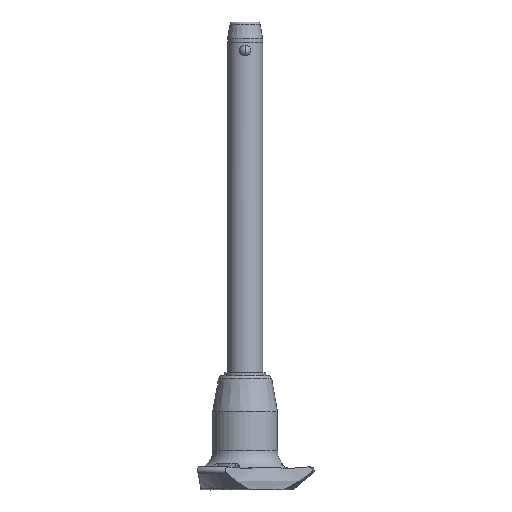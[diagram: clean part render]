
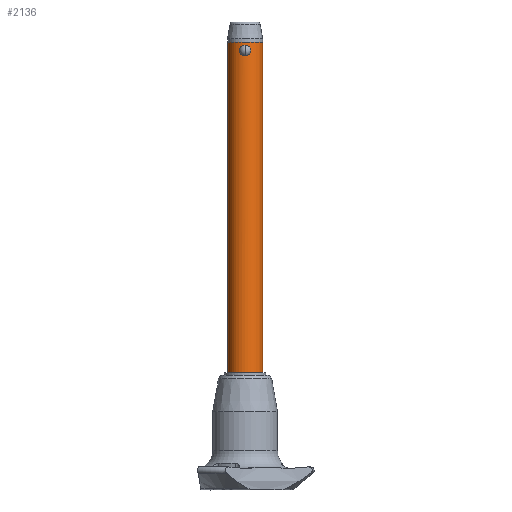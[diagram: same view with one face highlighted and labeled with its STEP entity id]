
A CAD part, front view. The second image highlights one B-rep face of the part: STEP entity #2136.
In plain terms, the highlighted cylindrical face has radius 5 mm (diameter 10 mm), a partial arc.
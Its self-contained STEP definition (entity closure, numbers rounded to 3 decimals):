
#4 = CARTESIAN_POINT ( 'NONE',  ( 1.594, -4.739, 1.721 ) ) ;
#18 = CARTESIAN_POINT ( 'NONE',  ( 1.384, -4.805, 0.735 ) ) ;
#42 = VERTEX_POINT ( 'NONE', #2245 ) ;
#43 = AXIS2_PLACEMENT_3D ( 'NONE', #1720, #1324, #2596 ) ;
#51 = CARTESIAN_POINT ( 'NONE',  ( -0.412, -4.987, 2.997 ) ) ;
#78 = CARTESIAN_POINT ( 'NONE',  ( -0.412, -4.987, 0.037 ) ) ;
#128 = EDGE_CURVE ( 'NONE', #1714, #693, #1230, .T. ) ;
#160 = DIRECTION ( 'NONE',  ( 1., 0., 0. ) ) ;
#220 = CARTESIAN_POINT ( 'NONE',  ( 1.272, -4.838, 2.47 ) ) ;
#281 = CARTESIAN_POINT ( 'NONE',  ( -1.435, -4.79, 2.209 ) ) ;
#283 = CARTESIAN_POINT ( 'NONE',  ( 0.205, -5., 0. ) ) ;
#295 = CARTESIAN_POINT ( 'NONE',  ( -1.394, -4.802, 0.731 ) ) ;
#347 = DIRECTION ( 'NONE',  ( 0., 0., 1. ) ) ;
#356 = EDGE_CURVE ( 'NONE', #1023, #541, #2048, .T. ) ;
#420 = DIRECTION ( 'NONE',  ( 0., 0., 1. ) ) ;
#465 = CARTESIAN_POINT ( 'NONE',  ( 0., -5., 0. ) ) ;
#483 = CARTESIAN_POINT ( 'NONE',  ( 5., 0., 3.84 ) ) ;
#493 = CARTESIAN_POINT ( 'NONE',  ( 1.434, -4.79, 0.822 ) ) ;
#503 = AXIS2_PLACEMENT_3D ( 'NONE', #2338, #572, #1203 ) ;
#519 = VERTEX_POINT ( 'NONE', #1777 ) ;
#521 = CARTESIAN_POINT ( 'NONE',  ( -0.208, -5., 3.033 ) ) ;
#534 = CARTESIAN_POINT ( 'NONE',  ( -0.965, -4.907, 2.738 ) ) ;
#541 = VERTEX_POINT ( 'NONE', #2744 ) ;
#572 = DIRECTION ( 'NONE',  ( 0., 0., 1. ) ) ;
#616 = ORIENTED_EDGE ( 'NONE', *, *, #1909, .F. ) ;
#690 = CARTESIAN_POINT ( 'NONE',  ( -1.272, -4.838, 0.564 ) ) ;
#692 = CARTESIAN_POINT ( 'NONE',  ( 0.699, -4.952, 0.144 ) ) ;
#693 = VERTEX_POINT ( 'NONE', #483 ) ;
#697 = CARTESIAN_POINT ( 'NONE',  ( 5., 0., -90. ) ) ;
#747 = CARTESIAN_POINT ( 'NONE',  ( -1.604, -4.736, 1.416 ) ) ;
#772 = AXIS2_PLACEMENT_3D ( 'NONE', #2081, #347, #160 ) ;
#874 = CARTESIAN_POINT ( 'NONE',  ( 0.412, -4.987, 0.037 ) ) ;
#904 = CARTESIAN_POINT ( 'NONE',  ( -0.7, -4.952, 2.888 ) ) ;
#906 = CARTESIAN_POINT ( 'NONE',  ( 1.048, -4.889, 2.676 ) ) ;
#923 = CARTESIAN_POINT ( 'NONE',  ( -1.56, -4.751, 1.931 ) ) ;
#951 = CARTESIAN_POINT ( 'NONE',  ( -0.205, -5., 0. ) ) ;
#967 = CARTESIAN_POINT ( 'NONE',  ( 0., -5., 3.033 ) ) ;
#1003 = CIRCLE ( 'NONE', #43, 5. ) ;
#1019 = EDGE_CURVE ( 'NONE', #519, #42, #1510, .T. ) ;
#1023 = VERTEX_POINT ( 'NONE', #2369 ) ;
#1097 = CARTESIAN_POINT ( 'NONE',  ( 1.196, -4.855, 0.493 ) ) ;
#1121 = EDGE_CURVE ( 'NONE', #541, #1023, #2383, .T. ) ;
#1134 = VECTOR ( 'NONE', #1680, 1000. ) ;
#1144 = CARTESIAN_POINT ( 'NONE',  ( 0., -5., 3.033 ) ) ;
#1160 = CARTESIAN_POINT ( 'NONE',  ( 1.551, -4.753, 1.922 ) ) ;
#1172 = CARTESIAN_POINT ( 'NONE',  ( -1.047, -4.89, 0.357 ) ) ;
#1203 = DIRECTION ( 'NONE',  ( 1., 0., 0. ) ) ;
#1228 = EDGE_LOOP ( 'NONE', ( #2679, #1833 ) ) ;
#1230 = LINE ( 'NONE', #2571, #1134 ) ;
#1309 = CARTESIAN_POINT ( 'NONE',  ( 0.792, -4.938, 2.844 ) ) ;
#1320 = ORIENTED_EDGE ( 'NONE', *, *, #128, .T. ) ;
#1324 = DIRECTION ( 'NONE',  ( 0., 0., -1. ) ) ;
#1367 = CARTESIAN_POINT ( 'NONE',  ( -1.047, -4.89, 2.676 ) ) ;
#1510 = LINE ( 'NONE', #2385, #2321 ) ;
#1565 = CARTESIAN_POINT ( 'NONE',  ( -0.966, -4.907, 0.296 ) ) ;
#1567 = CARTESIAN_POINT ( 'NONE',  ( 0.7, -4.952, 2.888 ) ) ;
#1680 = DIRECTION ( 'NONE',  ( 0., 0., 1. ) ) ;
#1708 = ORIENTED_EDGE ( 'NONE', *, *, #2167, .F. ) ;
#1714 = VERTEX_POINT ( 'NONE', #697 ) ;
#1720 = CARTESIAN_POINT ( 'NONE',  ( 0., 0., -90. ) ) ;
#1730 = CIRCLE ( 'NONE', #503, 5. ) ;
#1766 = CARTESIAN_POINT ( 'NONE',  ( 1.56, -4.751, 1.103 ) ) ;
#1777 = CARTESIAN_POINT ( 'NONE',  ( -5., 0., -90. ) ) ;
#1783 = CARTESIAN_POINT ( 'NONE',  ( -1.604, -4.736, 1.724 ) ) ;
#1785 = CARTESIAN_POINT ( 'NONE',  ( 1.604, -4.736, 1.619 ) ) ;
#1800 = CARTESIAN_POINT ( 'NONE',  ( 1.265, -4.838, 0.57 ) ) ;
#1813 = CARTESIAN_POINT ( 'NONE',  ( -1.551, -4.753, 1.11 ) ) ;
#1815 = CARTESIAN_POINT ( 'NONE',  ( 0.966, -4.907, 2.738 ) ) ;
#1829 = CARTESIAN_POINT ( 'NONE',  ( -1.519, -4.764, 1.013 ) ) ;
#1833 = ORIENTED_EDGE ( 'NONE', *, *, #1121, .F. ) ;
#1854 = FACE_BOUND ( 'NONE', #1228, .T. ) ;
#1885 = CYLINDRICAL_SURFACE ( 'NONE', #772, 5. ) ;
#1909 = EDGE_CURVE ( 'NONE', #1714, #519, #1003, .T. ) ;
#1971 = CARTESIAN_POINT ( 'NONE',  ( 1.604, -4.736, 1.308 ) ) ;
#1973 = ORIENTED_EDGE ( 'NONE', *, *, #1019, .F. ) ;
#2013 = CARTESIAN_POINT ( 'NONE',  ( -0.792, -4.938, 0.19 ) ) ;
#2028 = CARTESIAN_POINT ( 'NONE',  ( -1.264, -4.838, 2.464 ) ) ;
#2041 = CARTESIAN_POINT ( 'NONE',  ( -0.699, -4.952, 0.145 ) ) ;
#2048 = B_SPLINE_CURVE_WITH_KNOTS ( 'NONE', 3,
 ( #967, #521, #51, #904, #2473, #534, #1367, #2255, #2028, #2240, #281, #923, #1783, #747, #2486, #1813, #1829, #295, #690, #1172, #1565, #2013, #2041, #78, #951, #2696 ),
 .UNSPECIFIED., .F., .F.,
 ( 4, 2, 2, 2, 2, 2, 2, 2, 2, 2, 2, 2, 4 ),
 ( 0., 0.001, 0.001, 0.001, 0.002, 0.002, 0.002, 0.003, 0.003, 0.004, 0.004, 0.004, 0.005 ),
 .UNSPECIFIED. ) ;
#2081 = CARTESIAN_POINT ( 'NONE',  ( 0., 0., -90. ) ) ;
#2136 = ADVANCED_FACE ( 'NONE', ( #2308, #1854 ), #1885, .T. ) ;
#2167 = EDGE_CURVE ( 'NONE', #42, #693, #1730, .T. ) ;
#2179 = CARTESIAN_POINT ( 'NONE',  ( 0.412, -4.987, 2.996 ) ) ;
#2196 = CARTESIAN_POINT ( 'NONE',  ( 1.395, -4.802, 2.301 ) ) ;
#2240 = CARTESIAN_POINT ( 'NONE',  ( -1.383, -4.805, 2.299 ) ) ;
#2245 = CARTESIAN_POINT ( 'NONE',  ( -5., 0., 3.84 ) ) ;
#2255 = CARTESIAN_POINT ( 'NONE',  ( -1.197, -4.855, 2.539 ) ) ;
#2308 = FACE_OUTER_BOUND ( 'NONE', #2685, .T. ) ;
#2321 = VECTOR ( 'NONE', #420, 1000. ) ;
#2338 = CARTESIAN_POINT ( 'NONE',  ( 0., 0., 3.84 ) ) ;
#2369 = CARTESIAN_POINT ( 'NONE',  ( 0., -5., 3.033 ) ) ;
#2383 = B_SPLINE_CURVE_WITH_KNOTS ( 'NONE', 3,
 ( #465, #283, #874, #692, #2427, #2623, #2396, #1097, #1800, #18, #493, #1766, #1971, #1785, #4, #1160, #2671, #2196, #220, #906, #1815, #1309, #1567, #2179, #2457, #1144 ),
 .UNSPECIFIED., .F., .F.,
 ( 4, 2, 2, 2, 2, 2, 2, 2, 2, 2, 2, 2, 4 ),
 ( 0.005, 0.006, 0.006, 0.006, 0.006, 0.007, 0.007, 0.008, 0.008, 0.009, 0.009, 0.009, 0.01 ),
 .UNSPECIFIED. ) ;
#2385 = CARTESIAN_POINT ( 'NONE',  ( -5., 0., -90. ) ) ;
#2396 = CARTESIAN_POINT ( 'NONE',  ( 1.047, -4.89, 0.356 ) ) ;
#2427 = CARTESIAN_POINT ( 'NONE',  ( 0.792, -4.938, 0.19 ) ) ;
#2457 = CARTESIAN_POINT ( 'NONE',  ( 0.208, -5., 3.033 ) ) ;
#2473 = CARTESIAN_POINT ( 'NONE',  ( -0.791, -4.938, 2.844 ) ) ;
#2486 = CARTESIAN_POINT ( 'NONE',  ( -1.594, -4.739, 1.312 ) ) ;
#2571 = CARTESIAN_POINT ( 'NONE',  ( 5., 0., -90. ) ) ;
#2596 = DIRECTION ( 'NONE',  ( 1., 0., 0. ) ) ;
#2623 = CARTESIAN_POINT ( 'NONE',  ( 0.966, -4.907, 0.296 ) ) ;
#2671 = CARTESIAN_POINT ( 'NONE',  ( 1.519, -4.764, 2.021 ) ) ;
#2679 = ORIENTED_EDGE ( 'NONE', *, *, #356, .F. ) ;
#2685 = EDGE_LOOP ( 'NONE', ( #1973, #616, #1320, #1708 ) ) ;
#2696 = CARTESIAN_POINT ( 'NONE',  ( 0., -5., 0. ) ) ;
#2744 = CARTESIAN_POINT ( 'NONE',  ( 0., -5., 0. ) ) ;
